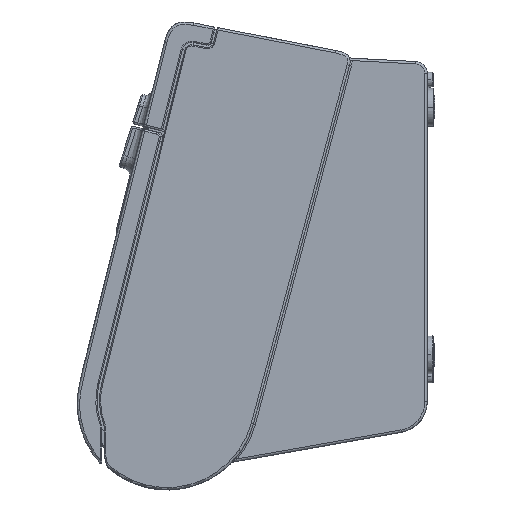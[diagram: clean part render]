
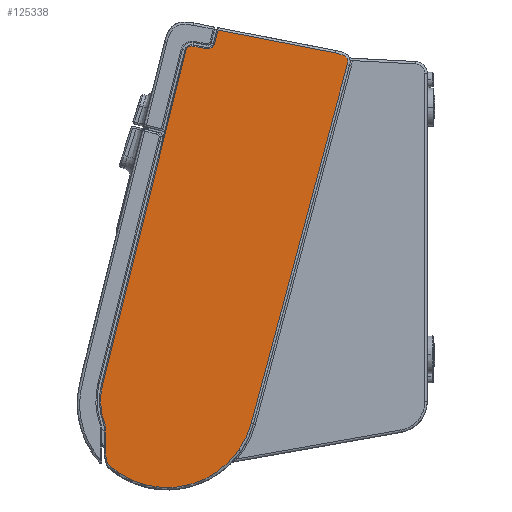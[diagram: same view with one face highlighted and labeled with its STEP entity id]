
A CAD part, left-side view. The second image highlights one B-rep face of the part: STEP entity #125338.
In plain terms, the highlighted planar face has unit normal (-1, 0, 0).
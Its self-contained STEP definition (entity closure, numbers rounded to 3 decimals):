
#98848=DIRECTION('',(0.,-0.242,0.97));
#98849=VECTOR('',#98848,5.665);
#98850=CARTESIAN_POINT('',(-29.6,0.031,53.532));
#98851=LINE('',#98850,#98849);
#98852=DIRECTION('',(0.,-0.982,-0.191));
#98853=VECTOR('',#98852,49.854);
#98854=CARTESIAN_POINT('',(-29.6,-1.339,59.029));
#98855=LINE('',#98854,#98853);
#98856=CARTESIAN_POINT('',(-29.6,-50.278,49.516));
#98857=CARTESIAN_POINT('',(-29.6,-50.534,49.467));
#98858=CARTESIAN_POINT('',(-29.6,-51.014,49.366));
#98859=CARTESIAN_POINT('',(-29.6,-51.637,49.215));
#98860=CARTESIAN_POINT('',(-29.6,-52.176,49.064));
#98861=CARTESIAN_POINT('',(-29.6,-52.639,48.916));
#98862=CARTESIAN_POINT('',(-29.6,-53.035,48.771));
#98863=CARTESIAN_POINT('',(-29.6,-53.372,48.63));
#98864=CARTESIAN_POINT('',(-29.6,-53.658,48.495));
#98865=CARTESIAN_POINT('',(-29.6,-53.901,48.366));
#98866=CARTESIAN_POINT('',(-29.6,-54.107,48.243));
#98867=CARTESIAN_POINT('',(-29.6,-54.284,48.125));
#98868=CARTESIAN_POINT('',(-29.6,-54.436,48.011));
#98869=CARTESIAN_POINT('',(-29.6,-54.567,47.901));
#98870=CARTESIAN_POINT('',(-29.6,-54.681,47.795));
#98871=CARTESIAN_POINT('',(-29.6,-54.78,47.691));
#98872=CARTESIAN_POINT('',(-29.6,-54.867,47.588));
#98873=CARTESIAN_POINT('',(-29.6,-54.943,47.486));
#98874=CARTESIAN_POINT('',(-29.6,-55.011,47.383));
#98875=CARTESIAN_POINT('',(-29.6,-55.072,47.279));
#98876=CARTESIAN_POINT('',(-29.6,-55.125,47.172));
#98877=CARTESIAN_POINT('',(-29.6,-55.173,47.06));
#98878=CARTESIAN_POINT('',(-29.6,-55.215,46.943));
#98879=CARTESIAN_POINT('',(-29.6,-55.252,46.817));
#98880=CARTESIAN_POINT('',(-29.6,-55.284,46.682));
#98881=CARTESIAN_POINT('',(-29.6,-55.309,46.535));
#98882=CARTESIAN_POINT('',(-29.6,-55.327,46.373));
#98883=CARTESIAN_POINT('',(-29.6,-55.338,46.194));
#98884=CARTESIAN_POINT('',(-29.6,-55.339,45.995));
#98885=CARTESIAN_POINT('',(-29.6,-55.328,45.77));
#98886=CARTESIAN_POINT('',(-29.6,-55.303,45.516));
#98887=CARTESIAN_POINT('',(-29.6,-55.26,45.226));
#98888=CARTESIAN_POINT('',(-29.6,-55.195,44.895));
#98889=CARTESIAN_POINT('',(-29.6,-55.133,44.642));
#98890=CARTESIAN_POINT('',(-29.6,-55.097,44.507));
#98892=DIRECTION('',(0.,0.259,-0.966));
#98893=VECTOR('',#98892,154.335);
#98894=CARTESIAN_POINT('',(-29.6,-55.097,44.507));
#98895=LINE('',#98894,#98893);
#98896=CARTESIAN_POINT('',(-29.6,19.815,-95.2));
#98897=DIRECTION('',(1.,0.,0.));
#98898=DIRECTION('',(0.,-0.966,-0.259));
#98899=AXIS2_PLACEMENT_3D('',#98896,#98897,#98898);
#98901=CARTESIAN_POINT('',(-29.6,26.7,-115.95));
#98902=DIRECTION('',(1.,0.,0.));
#98903=DIRECTION('',(0.,0.955,-0.297));
#98904=AXIS2_PLACEMENT_3D('',#98901,#98902,#98903);
#98906=DIRECTION('',(0.,0.,1.));
#98907=VECTOR('',#98906,9.401);
#98908=CARTESIAN_POINT('',(-29.6,45.5,-115.95));
#98909=LINE('',#98908,#98907);
#98910=CARTESIAN_POINT('',(-29.6,51.,-106.549));
#98911=DIRECTION('',(-1.,0.,0.));
#98912=DIRECTION('',(0.,-1.,0.));
#98913=AXIS2_PLACEMENT_3D('',#98910,#98911,#98912);
#98915=CARTESIAN_POINT('',(-29.6,19.8,-95.2));
#98916=DIRECTION('',(1.,0.,0.));
#98917=DIRECTION('',(0.,0.94,-0.342));
#98918=AXIS2_PLACEMENT_3D('',#98915,#98916,#98917);
#98920=DIRECTION('',(0.,-0.242,0.97));
#98921=VECTOR('',#98920,143.306);
#98922=CARTESIAN_POINT('',(-29.6,46.677,-88.499));
#98923=LINE('',#98922,#98921);
#98924=CARTESIAN_POINT('',(-29.6,9.582,49.946));
#98925=DIRECTION('',(1.,0.,0.));
#98926=DIRECTION('',(0.,0.97,0.242));
#98927=AXIS2_PLACEMENT_3D('',#98924,#98925,#98926);
#98929=DIRECTION('',(0.,-0.982,-0.191));
#98930=VECTOR('',#98929,5.696);
#98931=CARTESIAN_POINT('',(-29.6,9.105,52.4));
#98932=LINE('',#98931,#98930);
#98933=CARTESIAN_POINT('',(-29.6,2.942,54.258));
#98934=DIRECTION('',(-1.,0.,0.));
#98935=DIRECTION('',(0.,0.191,-0.982));
#98936=AXIS2_PLACEMENT_3D('',#98933,#98934,#98935);
#108943=CARTESIAN_POINT('',(-29.6,-1.339,59.029));
#121686=CARTESIAN_POINT('',(-29.6,-55.097,44.507));
#121687=CARTESIAN_POINT('',(-29.6,-15.152,-104.569));
#121688=VERTEX_POINT('',#121686);
#121689=VERTEX_POINT('',#121687);
#121697=CARTESIAN_POINT('',(-29.6,-50.278,49.516));
#121699=VERTEX_POINT('',#121697);
#125008=VERTEX_POINT('',#108943);
#125011=CARTESIAN_POINT('',(-29.6,0.031,53.532));
#125012=VERTEX_POINT('',#125011);
#125015=CARTESIAN_POINT('',(-29.6,3.514,51.313));
#125016=VERTEX_POINT('',#125015);
#125019=CARTESIAN_POINT('',(-29.6,9.105,52.4));
#125020=VERTEX_POINT('',#125019);
#125023=CARTESIAN_POINT('',(-29.6,12.008,50.551));
#125024=VERTEX_POINT('',#125023);
#125027=CARTESIAN_POINT('',(-29.6,46.677,-88.499));
#125028=VERTEX_POINT('',#125027);
#125031=CARTESIAN_POINT('',(-29.6,45.831,-104.669));
#125032=VERTEX_POINT('',#125031);
#125035=CARTESIAN_POINT('',(-29.6,45.5,-106.549));
#125036=VERTEX_POINT('',#125035);
#125039=CARTESIAN_POINT('',(-29.6,45.5,-115.95));
#125040=VERTEX_POINT('',#125039);
#125043=CARTESIAN_POINT('',(-29.6,44.651,-121.536));
#125044=VERTEX_POINT('',#125043);
#125305=CARTESIAN_POINT('',(-29.6,-88.4,-137.4));
#125306=DIRECTION('',(-1.,0.,0.));
#125307=DIRECTION('',(0.,0.,1.));
#125308=AXIS2_PLACEMENT_3D('',#125305,#125306,#125307);
#125309=PLANE('',#125308);
#125311=ORIENTED_EDGE('',*,*,#125310,.T.);
#125313=ORIENTED_EDGE('',*,*,#125312,.T.);
#125315=ORIENTED_EDGE('',*,*,#125314,.T.);
#125317=ORIENTED_EDGE('',*,*,#125316,.T.);
#125319=ORIENTED_EDGE('',*,*,#125318,.T.);
#125321=ORIENTED_EDGE('',*,*,#125320,.T.);
#125323=ORIENTED_EDGE('',*,*,#125322,.T.);
#125325=ORIENTED_EDGE('',*,*,#125324,.T.);
#125327=ORIENTED_EDGE('',*,*,#125326,.T.);
#125329=ORIENTED_EDGE('',*,*,#125328,.T.);
#125331=ORIENTED_EDGE('',*,*,#125330,.T.);
#125333=ORIENTED_EDGE('',*,*,#125332,.T.);
#125335=ORIENTED_EDGE('',*,*,#125334,.T.);
#125336=EDGE_LOOP('',(#125311,#125313,#125315,#125317,#125319,#125321,#125323,
#125325,#125327,#125329,#125331,#125333,#125335));
#125337=FACE_OUTER_BOUND('',#125336,.F.);
#98891=B_SPLINE_CURVE_WITH_KNOTS('',3,(#98856,#98857,#98858,#98859,#98860,
#98861,#98862,#98863,#98864,#98865,#98866,#98867,#98868,#98869,#98870,#98871,
#98872,#98873,#98874,#98875,#98876,#98877,#98878,#98879,#98880,#98881,#98882,
#98883,#98884,#98885,#98886,#98887,#98888,#98889,#98890),.UNSPECIFIED.,.F.,.F.,(
4,1,1,1,1,1,1,1,1,1,1,1,1,1,1,1,1,1,1,1,1,1,1,1,1,1,1,1,1,1,1,1,4),(0.,
0.031,0.063,0.094,0.125,0.156,0.188,0.219,0.25,0.281,
0.313,0.344,0.375,0.406,0.438,0.469,0.5,0.531,
0.563,0.594,0.625,0.656,0.688,0.719,0.75,0.781,
0.813,0.844,0.875,0.906,0.938,0.969,1.),.UNSPECIFIED.);
#98900=CIRCLE('',#98899,36.2);
#98905=CIRCLE('',#98904,18.8);
#98914=CIRCLE('',#98913,5.5);
#98919=CIRCLE('',#98918,27.7);
#98928=CIRCLE('',#98927,2.5);
#98937=CIRCLE('',#98936,3.);
#125310=EDGE_CURVE('',#125012,#125008,#98851,.T.);
#125312=EDGE_CURVE('',#125008,#121699,#98855,.T.);
#125314=EDGE_CURVE('',#121699,#121688,#98891,.T.);
#125316=EDGE_CURVE('',#121688,#121689,#98895,.T.);
#125318=EDGE_CURVE('',#121689,#125044,#98900,.T.);
#125320=EDGE_CURVE('',#125044,#125040,#98905,.T.);
#125322=EDGE_CURVE('',#125040,#125036,#98909,.T.);
#125324=EDGE_CURVE('',#125036,#125032,#98914,.T.);
#125326=EDGE_CURVE('',#125032,#125028,#98919,.T.);
#125328=EDGE_CURVE('',#125028,#125024,#98923,.T.);
#125330=EDGE_CURVE('',#125024,#125020,#98928,.T.);
#125332=EDGE_CURVE('',#125020,#125016,#98932,.T.);
#125334=EDGE_CURVE('',#125016,#125012,#98937,.T.);
#125338=ADVANCED_FACE('',(#125337),#125309,.T.);
